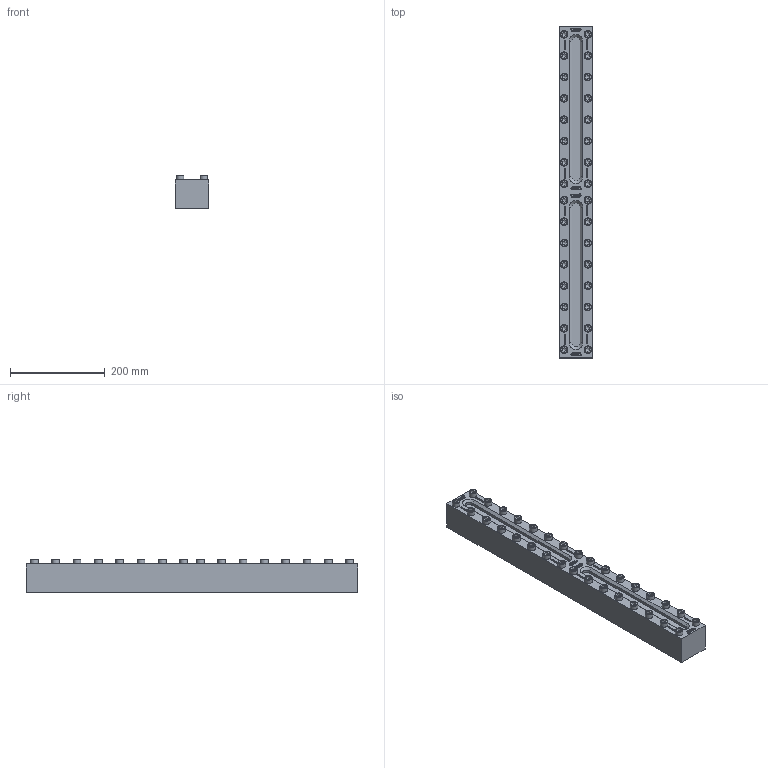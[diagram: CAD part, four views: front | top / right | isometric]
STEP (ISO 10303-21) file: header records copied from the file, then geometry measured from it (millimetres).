
FILE_DESCRIPTION(/* description */ (''),/* implementation_level */ '2;1');
FILE_NAME(/* name */ 'W:\Konstruktion_ACI\330\_Zeichnungen\STEP\ACI-330-700-40.stp',/* time_stamp */ '2022-03-01T17:23:54+01:00',/* author */ ('koslowksi'),/* organization */ (''),/* preprocessor_version */ 'ST-DEVELOPER v16.1',/* originating_system */ 'Autodesk Inventor 2016',/* authorisation */ '');
FILE_SCHEMA (('AUTOMOTIVE_DESIGN { 1 0 10303 214 3 1 1 }'));
Products named in the file (1): ACI-330-700-40.stp
Bounding box: 70 x 700 x 70.9 mm (x, y, z)
Volume: 2690684.9 mm3; surface area: 247598.4 mm2
Topology: 1 solids, 1 shells, 2546 faces, 6872 edges, 4568 vertices
Faces by surface type: plane 1834, bspline 604, cylinder 40, cone 36, torus 32
Full cylindrical faces by diameter (mm): 16 x32
Entity records: 83168 total; most frequent: CARTESIAN_POINT 21999, ORIENTED_EDGE 13424, DIRECTION 9314, EDGE_CURVE 6712, LINE 5196, VECTOR 5196, VERTEX_POINT 4504, EDGE_LOOP 2882
